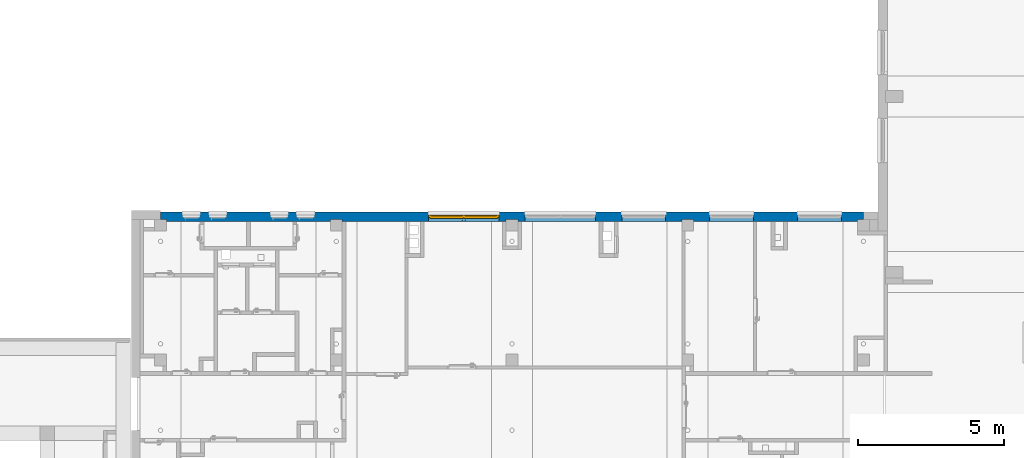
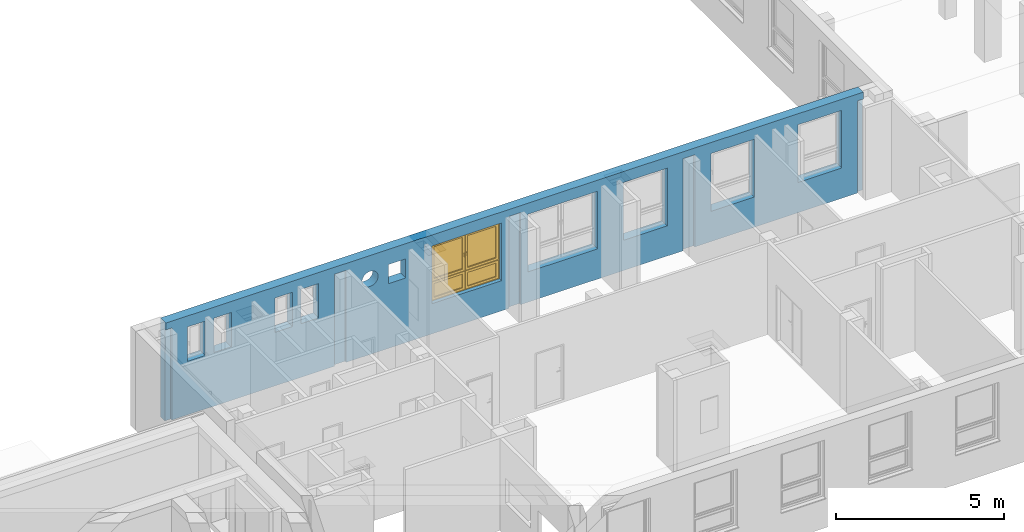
# One storey, part 14 of 50: 1 wall, 1 window, 11 openings.
"""IFC4 building model written with IfcOpenShell, lengths in metres."""

from ifc_helpers import new_model, entity, si_unit, converted_unit, derived_unit, frame, frame_2d, origin, origin_with_axes, place, context, subcontext, project, spatial, polyline, rectangle, outline, extrude, clip, bounded_halfspace, closed_shell, open_shell, surface_model, source, transform, mapped, material, layer, layer_set, layer_usage, element, fill, save


model = new_model("IFC4")

# Units and contexts
model_context = context("Model", 3, precision=1e-05, world=origin())
body_context = subcontext(model_context, "Body", "Model", "MODEL_VIEW")
ifc_project = project(units=[si_unit("LENGTHUNIT", "METRE"), si_unit("AREAUNIT", "SQUARE_METRE"), si_unit("VOLUMEUNIT", "CUBIC_METRE"), si_unit("MASSUNIT", "GRAM", prefix="KILO"), converted_unit("PLANEANGLEUNIT", "DEGREE", entity("IfcPlaneAngleMeasure", 0.0174532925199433), si_unit("PLANEANGLEUNIT", "RADIAN"), dimensions=[0, 0, 0, 0, 0, 0, 0]), derived_unit("THERMALTRANSMITTANCEUNIT", [(si_unit("POWERUNIT", "WATT"), 1), (si_unit("THERMODYNAMICTEMPERATUREUNIT", "KELVIN"), -1), (si_unit("LENGTHUNIT", "METRE"), -2)]), derived_unit("VOLUMETRICFLOWRATEUNIT", [(si_unit("LENGTHUNIT", "METRE"), 3), (converted_unit("TIMEUNIT", "hour", entity("IfcTimeMeasure", 3600.0), si_unit("TIMEUNIT", "SECOND"), dimensions=[0, 0, 1, 0, 0, 0, 0]), -1), (si_unit("LENGTHUNIT", "METRE"), -1)])], contexts=[model_context])

# Site, building, storey
site_placement = place(None, origin())
site = spatial("IfcSite", under=ifc_project, at=site_placement, Name="3. ASŘ", CompositionType="ELEMENT")
building_placement = place(site_placement, origin())
building = spatial("IfcBuilding", under=site, at=building_placement, Name="Pavilon C", CompositionType="ELEMENT")
storey_placement = place(building_placement, frame((0.0, 0.0, 3.6)))
storey = spatial("IfcBuildingStorey", under=building, at=storey_placement, Name="Půdorys 2.NP", CompositionType="ELEMENT", Elevation=3.6)

# Wall, openings, window
ifc_material = material(Name="ZELEZOBETONOVÁ KCE")
ifc_layer = layer(ifc_material, 0.32)
ifc_layer_set = layer_set([ifc_layer])
ifc_layer_usage = layer_usage(ifc_layer_set, "AXIS2", "POSITIVE", 0.0)
wall_placement = place(storey_placement, frame((24.0, 15.25, -0.1), z_axis=(0.0, 0.0, 1.0), x_axis=(-1.0, 0.0, 0.0)))
wall = element("IfcWall", 1, at=wall_placement, inside=storey, material=ifc_layer_usage, Name="ZELEZOBETONOVÁ KCE", context=body_context, shape_type="Clipping", body=[
    clip(clip(clip(clip(clip(extrude(rectangle(XDim=24.0, YDim=0.32, at=frame_2d((12.0, 0.16), x_axis=(1.0, 0.0))), origin_with_axes(), (0.0, 0.0, 1.0), 3.6), bounded_halfspace(frame((23.9, 0.285000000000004, 3.35), z_axis=(0.0, 0.0, 1.0), x_axis=(1.0, 0.0, 0.0)), True, origin_with_axes(), polyline([(23.8, 0.250000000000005), (24.0, 0.250000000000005), (24.0, 0.32), (23.8, 0.320000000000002), (23.8, 0.250000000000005)]))), bounded_halfspace(frame((0.0999999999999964, 0.285000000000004, 3.35), z_axis=(0.0, 0.0, 1.0), x_axis=(1.0, 0.0, 0.0)), True, origin_with_axes(), polyline([(0.0, 0.250000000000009), (0.199999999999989, 0.250000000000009), (0.199999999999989, 0.320000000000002), (0.0, 0.32), (0.0, 0.250000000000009)]))), bounded_halfspace(frame((12.0, 0.285000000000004, 3.35), z_axis=(0.0, 0.0, 1.0), x_axis=(1.0, 0.0, 0.0)), True, origin_with_axes(), polyline([(11.8, 0.250000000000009), (12.2, 0.250000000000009), (12.2, 0.32), (11.8, 0.32), (11.8, 0.250000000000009)]))), bounded_halfspace(frame((5.99999999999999, 0.285000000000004, 3.35), z_axis=(0.0, 0.0, 1.0), x_axis=(1.0, 0.0, 0.0)), True, origin_with_axes(), polyline([(5.79999999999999, 0.250000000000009), (6.19999999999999, 0.250000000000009), (6.19999999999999, 0.32), (5.79999999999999, 0.32), (5.79999999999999, 0.250000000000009)]))), bounded_halfspace(frame((18.0, 0.285000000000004, 3.35), z_axis=(0.0, 0.0, 1.0), x_axis=(1.0, 0.0, 0.0)), True, origin_with_axes(), polyline([(17.8, 0.250000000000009), (18.2, 0.250000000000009), (18.2, 0.32), (17.8, 0.32), (17.8, 0.250000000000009)]))),
])
opening_1_placement = place(wall_placement, frame((16.7, 0.0, 2.475), z_axis=(0.0, 1.0, 0.0), x_axis=(0.0, 0.0, 1.0)))
element("IfcOpeningElement", 2, at=opening_1_placement, cuts=wall, Name="Prostup stěnou", ObjectType="Opening", context=body_context, shape_type="SweptSolid", body=[
    extrude(outline(polyline([(0.274999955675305, 0.55), (0.303745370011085, 0.548493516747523), (0.332175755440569, 0.543990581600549), (0.359979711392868, 0.536540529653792), (0.386852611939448, 0.526224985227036), (0.412500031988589, 0.5131569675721), (0.436640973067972, 0.497479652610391), (0.459010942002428, 0.479364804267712), (0.479364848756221, 0.459010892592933), (0.497479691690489, 0.436640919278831), (0.513157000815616, 0.412499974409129), (0.526225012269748, 0.38685255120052), (0.536540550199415, 0.35997964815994), (0.54399059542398, 0.332175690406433), (0.548493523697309, 0.303745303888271), (0.549999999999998, 0.274999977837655), (0.548493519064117, 0.246254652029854), (0.543990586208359, 0.217824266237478), (0.536540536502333, 0.190020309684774), (0.526224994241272, 0.163147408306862), (0.51315697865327, 0.137499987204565), (0.497479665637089, 0.113359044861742), (0.479364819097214, 0.090989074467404), (0.459010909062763, 0.0706351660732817), (0.436640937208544, 0.0525203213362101), (0.412499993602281, 0.0368430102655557), (0.386852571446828, 0.0237749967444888), (0.35997966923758, 0.0134594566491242), (0.332175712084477, 0.00600940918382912), (0.303745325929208, 0.00150647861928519), (0.274999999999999, 0.0), (0.24625467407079, 0.00150647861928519), (0.217824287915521, 0.00600940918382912), (0.190020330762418, 0.0134594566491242), (0.16314742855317, 0.0237749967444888), (0.137500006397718, 0.0368430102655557), (0.113359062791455, 0.0525203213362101), (0.0909890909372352, 0.0706351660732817), (0.0706351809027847, 0.090989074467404), (0.0525203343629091, 0.113359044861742), (0.0368430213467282, 0.137499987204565), (0.0237750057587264, 0.163147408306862), (0.0134594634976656, 0.190020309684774), (0.00600941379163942, 0.217824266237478), (0.00150648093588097, 0.246254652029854), (0.0, 0.274999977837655), (0.00150647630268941, 0.303745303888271), (0.00600940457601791, 0.332175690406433), (0.0134594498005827, 0.35997964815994), (0.0237749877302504, 0.38685255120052), (0.0368429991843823, 0.412499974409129), (0.0525203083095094, 0.436640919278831), (0.0706351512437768, 0.459010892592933), (0.0909890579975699, 0.479364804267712), (0.113359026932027, 0.497479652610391), (0.137499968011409, 0.5131569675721), (0.16314738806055, 0.526224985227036), (0.19002028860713, 0.536540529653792), (0.21782424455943, 0.543990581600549), (0.246254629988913, 0.548493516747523), (0.274999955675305, 0.55)])), origin_with_axes(), (0.0, 0.0, 1.0), 0.32),
])
opening_2_placement = place(wall_placement, frame((15.75, 0.0, 2.35), z_axis=(0.0, 1.0, 0.0), x_axis=(0.0, 0.0, 1.0)))
element("IfcOpeningElement", 3, at=opening_2_placement, cuts=wall, Name="Prostup stěnou", ObjectType="Opening", context=body_context, shape_type="SweptSolid", body=[
    extrude(outline(polyline([(0.0, 0.6), (0.7, 0.6), (0.7, 0.0), (0.0, 0.0), (0.0, 0.6)])), origin_with_axes(), (0.0, 0.0, 1.0), 0.32),
])
opening_3_placement = place(wall_placement, frame((12.45, 0.0, 1.1), z_axis=(0.0, 1.0, 0.0), x_axis=(0.0, 0.0, 1.0)))
opening_3 = element("IfcOpeningElement", 4, at=opening_3_placement, cuts=wall, Name="Okenní otvor", ObjectType="Opening", context=body_context, shape_type="SweptSolid", body=[
    extrude(outline(polyline([(0.0, 2.4), (2.1, 2.4), (2.1, 0.0), (0.0, 0.0), (0.0, 2.4)])), origin_with_axes(), (0.0, 0.0, 1.0), 0.32),
])
opening_4_placement = place(wall_placement, frame((9.15000000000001, 0.0, 1.1), z_axis=(0.0, 1.0, 0.0), x_axis=(0.0, 0.0, 1.0)))
element("IfcOpeningElement", 5, at=opening_4_placement, cuts=wall, Name="Okenní otvor", ObjectType="Opening", context=body_context, shape_type="SweptSolid", body=[
    extrude(outline(polyline([(0.0, 2.4), (2.1, 2.4), (2.1, 0.0), (0.0, 0.0), (0.0, 2.4)])), origin_with_axes(), (0.0, 0.0, 1.0), 0.32),
])
opening_5_placement = place(wall_placement, frame((0.750000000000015, 0.0, 1.1), z_axis=(0.0, 1.0, 0.0), x_axis=(0.0, 0.0, 1.0)))
element("IfcOpeningElement", 6, at=opening_5_placement, cuts=wall, Name="Okenní otvor", ObjectType="Opening", context=body_context, shape_type="SweptSolid", body=[
    extrude(outline(polyline([(0.0, 1.5), (2.1, 1.5), (2.1, 0.0), (0.0, 0.0), (0.0, 1.5)])), origin_with_axes(), (0.0, 0.0, 1.0), 0.32),
])
opening_6_placement = place(wall_placement, frame((3.75000000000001, 0.0, 1.1), z_axis=(0.0, 1.0, 0.0), x_axis=(0.0, 0.0, 1.0)))
element("IfcOpeningElement", 7, at=opening_6_placement, cuts=wall, Name="Okenní otvor", ObjectType="Opening", context=body_context, shape_type="SweptSolid", body=[
    extrude(outline(polyline([(0.0, 1.5), (2.1, 1.5), (2.1, 0.0), (0.0, 0.0), (0.0, 1.5)])), origin_with_axes(), (0.0, 0.0, 1.0), 0.32),
])
opening_7_placement = place(wall_placement, frame((6.75000000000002, 0.0, 1.1), z_axis=(0.0, 1.0, 0.0), x_axis=(0.0, 0.0, 1.0)))
element("IfcOpeningElement", 8, at=opening_7_placement, cuts=wall, Name="Okenní otvor", ObjectType="Opening", context=body_context, shape_type="SweptSolid", body=[
    extrude(outline(polyline([(0.0, 1.5), (2.1, 1.5), (2.1, 0.0), (0.0, 0.0), (0.0, 1.5)])), origin_with_axes(), (0.0, 0.0, 1.0), 0.32),
])
opening_8_placement = place(wall_placement, frame((22.65, 0.0, 1.95), z_axis=(0.0, 1.0, 0.0), x_axis=(0.0, 0.0, 1.0)))
element("IfcOpeningElement", 9, at=opening_8_placement, cuts=wall, Name="Okenní otvor", ObjectType="Opening", context=body_context, shape_type="SweptSolid", body=[
    extrude(outline(polyline([(0.0, 0.6), (1.25, 0.6), (1.25, 0.0), (0.0, 0.0), (0.0, 0.6)])), origin_with_axes(), (0.0, 0.0, 1.0), 0.32),
])
opening_9_placement = place(wall_placement, frame((18.75, 0.0, 1.95), z_axis=(0.0, 1.0, 0.0), x_axis=(0.0, 0.0, 1.0)))
element("IfcOpeningElement", 10, at=opening_9_placement, cuts=wall, Name="Okenní otvor", ObjectType="Opening", context=body_context, shape_type="SweptSolid", body=[
    extrude(outline(polyline([(0.0, 0.6), (1.25, 0.6), (1.25, 0.0), (0.0, 0.0), (0.0, 0.6)])), origin_with_axes(), (0.0, 0.0, 1.0), 0.32),
])
opening_10_placement = place(wall_placement, frame((19.65, 0.0, 1.95), z_axis=(0.0, 1.0, 0.0), x_axis=(0.0, 0.0, 1.0)))
element("IfcOpeningElement", 11, at=opening_10_placement, cuts=wall, Name="Okenní otvor", ObjectType="Opening", context=body_context, shape_type="SweptSolid", body=[
    extrude(outline(polyline([(0.0, 0.6), (1.25, 0.6), (1.25, 0.0), (0.0, 0.0), (0.0, 0.6)])), origin_with_axes(), (0.0, 0.0, 1.0), 0.32),
])
opening_11_placement = place(wall_placement, frame((21.75, 0.0, 1.95), z_axis=(0.0, 1.0, 0.0), x_axis=(0.0, 0.0, 1.0)))
element("IfcOpeningElement", 12, at=opening_11_placement, cuts=wall, Name="Okenní otvor", ObjectType="Opening", context=body_context, shape_type="SweptSolid", body=[
    extrude(outline(polyline([(0.0, 0.6), (1.25, 0.6), (1.25, 0.0), (0.0, 0.0), (0.0, 0.6)])), origin_with_axes(), (0.0, 0.0, 1.0), 0.32),
])
shared_shape = source(origin_with_axes(), body_context, "Body", "SurfaceModel", [
    surface_model("IfcShellBasedSurfaceModel", [(0.0, 0.182, 2.1), (0.0, 0.182, -5.63337527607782e-18), (0.08, 0.182, -5.63337527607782e-18), (0.08, 0.182, 2.1), (0.0, 0.0899999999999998, 5.63337527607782e-18), (0.0, 0.0900000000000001, 2.1), (0.08, 0.0900000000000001, 2.1), (0.08, 0.0899999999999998, 5.63337527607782e-18)], [closed_shell([[[0, 1, 2, 3]], [[4, 5, 6, 7]], [[1, 0, 5, 4]], [[2, 1, 4, 7]], [[3, 2, 7, 6]], [[0, 3, 6, 5]]], orient=[[False], [False], [False], [False], [False], [False]])]),
    surface_model("IfcShellBasedSurfaceModel", [(2.32, 0.182, 2.1), (2.32, 0.182, -5.63337527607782e-18), (2.4, 0.182, -5.63337527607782e-18), (2.4, 0.182, 2.1), (2.32, 0.0899999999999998, 5.63337527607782e-18), (2.32, 0.0900000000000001, 2.1), (2.4, 0.0900000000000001, 2.1), (2.4, 0.0899999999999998, 5.63337527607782e-18)], [closed_shell([[[0, 1, 2, 3]], [[4, 5, 6, 7]], [[1, 0, 5, 4]], [[2, 1, 4, 7]], [[3, 2, 7, 6]], [[0, 3, 6, 5]]], orient=[[False], [False], [False], [False], [False], [False]])]),
    surface_model("IfcShellBasedSurfaceModel", [(0.08, 0.182, 0.08), (0.08, 0.182, -5.63337527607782e-18), (2.32, 0.182, -5.63337527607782e-18), (2.32, 0.182, 0.08), (0.08, 0.0899999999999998, 5.63337527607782e-18), (0.08, 0.0899999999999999, 0.08), (2.32, 0.0899999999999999, 0.08), (2.32, 0.0899999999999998, 5.63337527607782e-18)], [closed_shell([[[0, 1, 2, 3]], [[4, 5, 6, 7]], [[1, 0, 5, 4]], [[2, 1, 4, 7]], [[3, 2, 7, 6]], [[0, 3, 6, 5]]], orient=[[False], [False], [False], [False], [False], [False]])]),
    surface_model("IfcShellBasedSurfaceModel", [(0.08, 0.182, 2.1), (0.08, 0.182, 2.02), (2.32, 0.182, 2.02), (2.32, 0.182, 2.1), (0.08, 0.0900000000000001, 2.02), (0.08, 0.0900000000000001, 2.1), (2.32, 0.0900000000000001, 2.1), (2.32, 0.0900000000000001, 2.02)], [closed_shell([[[0, 1, 2, 3]], [[4, 5, 6, 7]], [[1, 0, 5, 4]], [[2, 1, 4, 7]], [[3, 2, 7, 6]], [[0, 3, 6, 5]]], orient=[[False], [False], [False], [False], [False], [False]])]),
    surface_model("IfcShellBasedSurfaceModel", [(1.16, 0.182, 2.02), (1.16, 0.182, 0.08), (1.24, 0.182, 0.08), (1.24, 0.182, 2.02), (1.16, 0.0899999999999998, 0.08), (1.16, 0.0900000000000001, 2.02), (1.24, 0.0900000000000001, 2.02), (1.24, 0.0899999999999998, 0.08)], [closed_shell([[[0, 1, 2, 3]], [[4, 5, 6, 7]], [[1, 0, 5, 4]], [[2, 1, 4, 7]], [[3, 2, 7, 6]], [[0, 3, 6, 5]]], orient=[[False], [False], [False], [False], [False], [False]])]),
    surface_model("IfcShellBasedSurfaceModel", [(0.08, 0.182, 0.76), (0.08, 0.182, 0.68), (1.16, 0.182, 0.68), (1.16, 0.182, 0.76), (0.08, 0.0899999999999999, 0.68), (0.08, 0.0899999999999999, 0.76), (1.16, 0.0899999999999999, 0.76), (1.16, 0.0899999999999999, 0.68)], [closed_shell([[[0, 1, 2, 3]], [[4, 5, 6, 7]], [[1, 0, 5, 4]], [[2, 1, 4, 7]], [[3, 2, 7, 6]], [[0, 3, 6, 5]]], orient=[[False], [False], [False], [False], [False], [False]])]),
    surface_model("IfcShellBasedSurfaceModel", [(1.24, 0.182, 0.76), (1.24, 0.182, 0.68), (2.32, 0.182, 0.68), (2.32, 0.182, 0.76), (1.24, 0.0899999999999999, 0.68), (1.24, 0.0899999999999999, 0.76), (2.32, 0.0899999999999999, 0.76), (2.32, 0.0899999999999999, 0.68)], [closed_shell([[[0, 1, 2, 3]], [[4, 5, 6, 7]], [[1, 0, 5, 4]], [[2, 1, 4, 7]], [[3, 2, 7, 6]], [[0, 3, 6, 5]]], orient=[[False], [False], [False], [False], [False], [False]])]),
    surface_model("IfcShellBasedSurfaceModel", [(0.05, 0.145, 0.71), (0.05, 0.145, 0.05), (0.13, 0.145, 0.05), (0.13, 0.145, 0.71), (0.05, 0.0599999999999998, 0.05), (0.05, 0.0599999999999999, 0.71), (0.13, 0.0599999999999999, 0.71), (0.13, 0.0599999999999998, 0.05)], [closed_shell([[[0, 1, 2, 3]], [[4, 5, 6, 7]], [[1, 0, 5, 4]], [[2, 1, 4, 7]], [[3, 2, 7, 6]], [[0, 3, 6, 5]]], orient=[[False], [False], [False], [False], [False], [False]])]),
    surface_model("IfcShellBasedSurfaceModel", [(1.11, 0.145, 0.71), (1.11, 0.145, 0.05), (1.19, 0.145, 0.05), (1.19, 0.145, 0.71), (1.11, 0.0599999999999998, 0.05), (1.11, 0.0599999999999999, 0.71), (1.19, 0.0599999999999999, 0.71), (1.19, 0.0599999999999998, 0.05)], [closed_shell([[[0, 1, 2, 3]], [[4, 5, 6, 7]], [[1, 0, 5, 4]], [[2, 1, 4, 7]], [[3, 2, 7, 6]], [[0, 3, 6, 5]]], orient=[[False], [False], [False], [False], [False], [False]])]),
    surface_model("IfcShellBasedSurfaceModel", [(0.13, 0.145, 0.13), (0.13, 0.145, 0.05), (1.11, 0.145, 0.05), (1.11, 0.145, 0.13), (0.13, 0.0599999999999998, 0.05), (0.13, 0.0599999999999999, 0.13), (1.11, 0.0599999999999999, 0.13), (1.11, 0.0599999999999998, 0.05)], [closed_shell([[[0, 1, 2, 3]], [[4, 5, 6, 7]], [[1, 0, 5, 4]], [[2, 1, 4, 7]], [[3, 2, 7, 6]], [[0, 3, 6, 5]]], orient=[[False], [False], [False], [False], [False], [False]])]),
    surface_model("IfcShellBasedSurfaceModel", [(0.13, 0.145, 0.71), (0.13, 0.145, 0.63), (1.11, 0.145, 0.63), (1.11, 0.145, 0.71), (0.13, 0.0599999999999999, 0.63), (0.13, 0.0599999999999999, 0.71), (1.11, 0.0599999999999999, 0.71), (1.11, 0.0599999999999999, 0.63)], [closed_shell([[[0, 1, 2, 3]], [[4, 5, 6, 7]], [[1, 0, 5, 4]], [[2, 1, 4, 7]], [[3, 2, 7, 6]], [[0, 3, 6, 5]]], orient=[[False], [False], [False], [False], [False], [False]])]),
    surface_model("IfcShellBasedSurfaceModel", [(0.05, 0.145, 2.05), (0.05, 0.145, 0.73), (0.13, 0.145, 0.73), (0.13, 0.145, 2.05), (0.05, 0.0599999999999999, 0.73), (0.05, 0.0600000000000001, 2.05), (0.13, 0.0600000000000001, 2.05), (0.13, 0.0599999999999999, 0.73)], [closed_shell([[[0, 1, 2, 3]], [[4, 5, 6, 7]], [[1, 0, 5, 4]], [[2, 1, 4, 7]], [[3, 2, 7, 6]], [[0, 3, 6, 5]]], orient=[[False], [False], [False], [False], [False], [False]])]),
    surface_model("IfcShellBasedSurfaceModel", [(1.11, 0.145, 2.05), (1.11, 0.145, 0.73), (1.19, 0.145, 0.73), (1.19, 0.145, 2.05), (1.11, 0.0599999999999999, 0.73), (1.11, 0.0600000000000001, 2.05), (1.19, 0.0600000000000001, 2.05), (1.19, 0.0599999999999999, 0.73)], [closed_shell([[[0, 1, 2, 3]], [[4, 5, 6, 7]], [[1, 0, 5, 4]], [[2, 1, 4, 7]], [[3, 2, 7, 6]], [[0, 3, 6, 5]]], orient=[[False], [False], [False], [False], [False], [False]])]),
    surface_model("IfcShellBasedSurfaceModel", [(0.13, 0.145, 0.81), (0.13, 0.145, 0.73), (1.11, 0.145, 0.73), (1.11, 0.145, 0.81), (0.13, 0.0599999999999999, 0.73), (0.13, 0.0599999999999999, 0.81), (1.11, 0.0599999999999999, 0.81), (1.11, 0.0599999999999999, 0.73)], [closed_shell([[[0, 1, 2, 3]], [[4, 5, 6, 7]], [[1, 0, 5, 4]], [[2, 1, 4, 7]], [[3, 2, 7, 6]], [[0, 3, 6, 5]]], orient=[[False], [False], [False], [False], [False], [False]])]),
    surface_model("IfcShellBasedSurfaceModel", [(0.13, 0.145, 2.05), (0.13, 0.145, 1.97), (1.11, 0.145, 1.97), (1.11, 0.145, 2.05), (0.13, 0.0600000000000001, 1.97), (0.13, 0.0600000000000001, 2.05), (1.11, 0.0600000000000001, 2.05), (1.11, 0.0600000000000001, 1.97)], [closed_shell([[[0, 1, 2, 3]], [[4, 5, 6, 7]], [[1, 0, 5, 4]], [[2, 1, 4, 7]], [[3, 2, 7, 6]], [[0, 3, 6, 5]]], orient=[[False], [False], [False], [False], [False], [False]])]),
    surface_model("IfcShellBasedSurfaceModel", [(1.1375, 0.06, 1.41), (1.1375, 0.06, 1.37), (1.1625, 0.06, 1.37), (1.1625, 0.06, 1.41), (1.1375, 0.05, 1.37), (1.1375, 0.05, 1.41), (1.1625, 0.05, 1.41), (1.1625, 0.05, 1.37)], [closed_shell([[[0, 1, 2, 3]], [[4, 5, 6, 7]], [[1, 0, 5, 4]], [[2, 1, 4, 7]], [[3, 2, 7, 6]], [[0, 3, 6, 5]]], orient=[[False], [False], [False], [False], [False], [False]])]),
    surface_model("IfcShellBasedSurfaceModel", [(1.16, 0.05, 1.39), (1.15866025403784, 0.05, 1.395), (1.155, 0.05, 1.39866025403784), (1.15, 0.05, 1.4), (1.145, 0.05, 1.39866025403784), (1.14133974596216, 0.05, 1.395), (1.14, 0.05, 1.39), (1.14133974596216, 0.05, 1.385), (1.145, 0.05, 1.38133974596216), (1.15, 0.05, 1.38), (1.155, 0.05, 1.38133974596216), (1.15866025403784, 0.05, 1.385), (1.16, 0.01, 1.39), (1.15866025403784, 0.00500000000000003, 1.395), (1.155, 0.00133974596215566, 1.39866025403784), (1.15, 2.8421709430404e-17, 1.4), (1.145, 0.00133974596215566, 1.39866025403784), (1.14133974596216, 0.00500000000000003, 1.395), (1.14, 0.01, 1.39), (1.14133974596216, 0.015, 1.385), (1.145, 0.0186602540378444, 1.38133974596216), (1.15, 0.02, 1.38), (1.155, 0.0186602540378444, 1.38133974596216), (1.15866025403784, 0.015, 1.385), (1.16, 0.01, 1.275), (1.15866025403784, 0.005, 1.275), (1.155, 0.00133974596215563, 1.275), (1.15, 0.0, 1.275), (1.145, 0.00133974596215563, 1.275), (1.14133974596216, 0.005, 1.275), (1.14, 0.01, 1.275), (1.14133974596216, 0.015, 1.275), (1.145, 0.0186602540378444, 1.275), (1.15, 0.02, 1.275), (1.155, 0.0186602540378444, 1.275), (1.15866025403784, 0.015, 1.275)], [open_shell([[[0, 1, 2, 3, 4, 5, 6, 7, 8, 9, 10, 11]], [[0, 12, 13, 1]], [[1, 13, 14, 2]], [[2, 14, 15, 3]], [[3, 15, 16, 4]], [[4, 16, 17, 5]], [[5, 17, 18, 6]], [[6, 18, 19, 7]], [[7, 19, 20, 8]], [[8, 20, 21, 9]], [[9, 21, 22, 10]], [[10, 22, 23, 11]], [[11, 23, 12, 0]], [[12, 24, 25, 13]], [[13, 25, 26, 14]], [[14, 26, 27, 15]], [[15, 27, 28, 16]], [[16, 28, 29, 17]], [[17, 29, 30, 18]], [[18, 30, 31, 19]], [[19, 31, 32, 20]], [[20, 32, 33, 21]], [[21, 33, 34, 22]], [[22, 34, 35, 23]], [[23, 35, 24, 12]]], orient=[[False], [False], [False], [False], [False], [False], [False], [False], [False], [False], [False], [False], [False], [False], [False], [False], [False], [False], [False], [False], [False], [False], [False], [False], [False]])]),
    surface_model("IfcShellBasedSurfaceModel", [(1.21, 0.145, 0.71), (1.21, 0.145, 0.05), (1.29, 0.145, 0.05), (1.29, 0.145, 0.71), (1.21, 0.0599999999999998, 0.05), (1.21, 0.0599999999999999, 0.71), (1.29, 0.0599999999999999, 0.71), (1.29, 0.0599999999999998, 0.05)], [closed_shell([[[0, 1, 2, 3]], [[4, 5, 6, 7]], [[1, 0, 5, 4]], [[2, 1, 4, 7]], [[3, 2, 7, 6]], [[0, 3, 6, 5]]], orient=[[False], [False], [False], [False], [False], [False]])]),
    surface_model("IfcShellBasedSurfaceModel", [(2.27, 0.145, 0.71), (2.27, 0.145, 0.05), (2.35, 0.145, 0.05), (2.35, 0.145, 0.71), (2.27, 0.0599999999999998, 0.05), (2.27, 0.0599999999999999, 0.71), (2.35, 0.0599999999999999, 0.71), (2.35, 0.0599999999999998, 0.05)], [closed_shell([[[0, 1, 2, 3]], [[4, 5, 6, 7]], [[1, 0, 5, 4]], [[2, 1, 4, 7]], [[3, 2, 7, 6]], [[0, 3, 6, 5]]], orient=[[False], [False], [False], [False], [False], [False]])]),
    surface_model("IfcShellBasedSurfaceModel", [(1.29, 0.145, 0.13), (1.29, 0.145, 0.05), (2.27, 0.145, 0.05), (2.27, 0.145, 0.13), (1.29, 0.0599999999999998, 0.05), (1.29, 0.0599999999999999, 0.13), (2.27, 0.0599999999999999, 0.13), (2.27, 0.0599999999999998, 0.05)], [closed_shell([[[0, 1, 2, 3]], [[4, 5, 6, 7]], [[1, 0, 5, 4]], [[2, 1, 4, 7]], [[3, 2, 7, 6]], [[0, 3, 6, 5]]], orient=[[False], [False], [False], [False], [False], [False]])]),
    surface_model("IfcShellBasedSurfaceModel", [(1.29, 0.145, 0.71), (1.29, 0.145, 0.63), (2.27, 0.145, 0.63), (2.27, 0.145, 0.71), (1.29, 0.0599999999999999, 0.63), (1.29, 0.0599999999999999, 0.71), (2.27, 0.0599999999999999, 0.71), (2.27, 0.0599999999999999, 0.63)], [closed_shell([[[0, 1, 2, 3]], [[4, 5, 6, 7]], [[1, 0, 5, 4]], [[2, 1, 4, 7]], [[3, 2, 7, 6]], [[0, 3, 6, 5]]], orient=[[False], [False], [False], [False], [False], [False]])]),
    surface_model("IfcShellBasedSurfaceModel", [(1.21, 0.145, 2.05), (1.21, 0.145, 0.73), (1.29, 0.145, 0.73), (1.29, 0.145, 2.05), (1.21, 0.0599999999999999, 0.73), (1.21, 0.0600000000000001, 2.05), (1.29, 0.0600000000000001, 2.05), (1.29, 0.0599999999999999, 0.73)], [closed_shell([[[0, 1, 2, 3]], [[4, 5, 6, 7]], [[1, 0, 5, 4]], [[2, 1, 4, 7]], [[3, 2, 7, 6]], [[0, 3, 6, 5]]], orient=[[False], [False], [False], [False], [False], [False]])]),
    surface_model("IfcShellBasedSurfaceModel", [(2.27, 0.145, 2.05), (2.27, 0.145, 0.73), (2.35, 0.145, 0.73), (2.35, 0.145, 2.05), (2.27, 0.0599999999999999, 0.73), (2.27, 0.0600000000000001, 2.05), (2.35, 0.0600000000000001, 2.05), (2.35, 0.0599999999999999, 0.73)], [closed_shell([[[0, 1, 2, 3]], [[4, 5, 6, 7]], [[1, 0, 5, 4]], [[2, 1, 4, 7]], [[3, 2, 7, 6]], [[0, 3, 6, 5]]], orient=[[False], [False], [False], [False], [False], [False]])]),
    surface_model("IfcShellBasedSurfaceModel", [(1.29, 0.145, 0.81), (1.29, 0.145, 0.73), (2.27, 0.145, 0.73), (2.27, 0.145, 0.81), (1.29, 0.0599999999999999, 0.73), (1.29, 0.0599999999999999, 0.81), (2.27, 0.0599999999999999, 0.81), (2.27, 0.0599999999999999, 0.73)], [closed_shell([[[0, 1, 2, 3]], [[4, 5, 6, 7]], [[1, 0, 5, 4]], [[2, 1, 4, 7]], [[3, 2, 7, 6]], [[0, 3, 6, 5]]], orient=[[False], [False], [False], [False], [False], [False]])]),
    surface_model("IfcShellBasedSurfaceModel", [(1.29, 0.145, 2.05), (1.29, 0.145, 1.97), (2.27, 0.145, 1.97), (2.27, 0.145, 2.05), (1.29, 0.0600000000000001, 1.97), (1.29, 0.0600000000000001, 2.05), (2.27, 0.0600000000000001, 2.05), (2.27, 0.0600000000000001, 1.97)], [closed_shell([[[0, 1, 2, 3]], [[4, 5, 6, 7]], [[1, 0, 5, 4]], [[2, 1, 4, 7]], [[3, 2, 7, 6]], [[0, 3, 6, 5]]], orient=[[False], [False], [False], [False], [False], [False]])]),
    surface_model("IfcShellBasedSurfaceModel", [(1.2375, 0.06, 1.41), (1.2375, 0.06, 1.37), (1.2625, 0.06, 1.37), (1.2625, 0.06, 1.41), (1.2375, 0.05, 1.37), (1.2375, 0.05, 1.41), (1.2625, 0.05, 1.41), (1.2625, 0.05, 1.37)], [closed_shell([[[0, 1, 2, 3]], [[4, 5, 6, 7]], [[1, 0, 5, 4]], [[2, 1, 4, 7]], [[3, 2, 7, 6]], [[0, 3, 6, 5]]], orient=[[False], [False], [False], [False], [False], [False]])]),
    surface_model("IfcShellBasedSurfaceModel", [(1.26, 0.05, 1.39), (1.25866025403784, 0.05, 1.395), (1.255, 0.05, 1.39866025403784), (1.25, 0.05, 1.4), (1.245, 0.05, 1.39866025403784), (1.24133974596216, 0.05, 1.395), (1.24, 0.05, 1.39), (1.24133974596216, 0.05, 1.385), (1.245, 0.05, 1.38133974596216), (1.25, 0.05, 1.38), (1.255, 0.05, 1.38133974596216), (1.25866025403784, 0.05, 1.385), (1.26, 0.01, 1.39), (1.25866025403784, 0.00500000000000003, 1.395), (1.255, 0.00133974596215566, 1.39866025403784), (1.25, 2.8421709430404e-17, 1.4), (1.245, 0.00133974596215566, 1.39866025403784), (1.24133974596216, 0.00500000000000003, 1.395), (1.24, 0.01, 1.39), (1.24133974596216, 0.015, 1.385), (1.245, 0.0186602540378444, 1.38133974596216), (1.25, 0.02, 1.38), (1.255, 0.0186602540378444, 1.38133974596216), (1.25866025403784, 0.015, 1.385), (1.26, 0.01, 1.275), (1.25866025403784, 0.005, 1.275), (1.255, 0.00133974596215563, 1.275), (1.25, 0.0, 1.275), (1.245, 0.00133974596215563, 1.275), (1.24133974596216, 0.005, 1.275), (1.24, 0.01, 1.275), (1.24133974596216, 0.015, 1.275), (1.245, 0.0186602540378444, 1.275), (1.25, 0.02, 1.275), (1.255, 0.0186602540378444, 1.275), (1.25866025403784, 0.015, 1.275)], [open_shell([[[0, 1, 2, 3, 4, 5, 6, 7, 8, 9, 10, 11]], [[0, 12, 13, 1]], [[1, 13, 14, 2]], [[2, 14, 15, 3]], [[3, 15, 16, 4]], [[4, 16, 17, 5]], [[5, 17, 18, 6]], [[6, 18, 19, 7]], [[7, 19, 20, 8]], [[8, 20, 21, 9]], [[9, 21, 22, 10]], [[10, 22, 23, 11]], [[11, 23, 12, 0]], [[12, 24, 25, 13]], [[13, 25, 26, 14]], [[14, 26, 27, 15]], [[15, 27, 28, 16]], [[16, 28, 29, 17]], [[17, 29, 30, 18]], [[18, 30, 31, 19]], [[19, 31, 32, 20]], [[20, 32, 33, 21]], [[21, 33, 34, 22]], [[22, 34, 35, 23]], [[23, 35, 24, 12]]], orient=[[False], [False], [False], [False], [False], [False], [False], [False], [False], [False], [False], [False], [False], [False], [False], [False], [False], [False], [False], [False], [False], [False], [False], [False], [False]])]),
    surface_model("IfcShellBasedSurfaceModel", [(0.13, 0.1125, 0.63), (0.13, 0.1125, 0.13), (1.11, 0.1125, 0.13), (1.11, 0.1125, 0.63), (0.13, 0.0924999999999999, 0.13), (0.13, 0.0924999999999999, 0.63), (1.11, 0.0924999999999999, 0.63), (1.11, 0.0924999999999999, 0.13)], [closed_shell([[[0, 1, 2, 3]], [[4, 5, 6, 7]], [[1, 0, 5, 4]], [[2, 1, 4, 7]], [[3, 2, 7, 6]], [[0, 3, 6, 5]]], orient=[[False], [False], [False], [False], [False], [False]])]),
    surface_model("IfcShellBasedSurfaceModel", [(1.29, 0.1125, 0.63), (1.29, 0.1125, 0.13), (2.27, 0.1125, 0.13), (2.27, 0.1125, 0.63), (1.29, 0.0924999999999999, 0.13), (1.29, 0.0924999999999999, 0.63), (2.27, 0.0924999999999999, 0.63), (2.27, 0.0924999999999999, 0.13)], [closed_shell([[[0, 1, 2, 3]], [[4, 5, 6, 7]], [[1, 0, 5, 4]], [[2, 1, 4, 7]], [[3, 2, 7, 6]], [[0, 3, 6, 5]]], orient=[[False], [False], [False], [False], [False], [False]])]),
    surface_model("IfcShellBasedSurfaceModel", [(0.13, 0.1025, 0.81), (1.11, 0.1025, 0.81), (1.11, 0.1025, 1.97), (0.13, 0.1025, 1.97)], [open_shell([[[0, 1, 2, 3]]], orient=[[False]])]),
    surface_model("IfcShellBasedSurfaceModel", [(1.29, 0.1025, 0.81), (2.27, 0.1025, 0.81), (2.27, 0.1025, 1.97), (1.29, 0.1025, 1.97)], [open_shell([[[0, 1, 2, 3]]], orient=[[False]])]),
])
window_placement = place(opening_3_placement, frame((0.0, 2.4, 0.282), z_axis=(1.0, 0.0, 0.0), x_axis=(0.0, -1.0, 2.44929359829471e-16)))
window = element("IfcWindow", 13, at=window_placement, inside=storey, Name="O06", OverallHeight=2.1, OverallWidth=2.4, PartitioningType="USERDEFINED", PredefinedType="WINDOW", context=body_context, shape_type="MappedRepresentation", body=[
    mapped(shared_shape, transform((0.0, 0.0, 0.0), x_axis=(1.0, 0.0, 0.0), y_axis=(0.0, 1.0, 0.0), z_axis=(0.0, 0.0, 1.0), scale=1.0)),
])
fill(opening_3, window)

save(model, "model.ifc")
